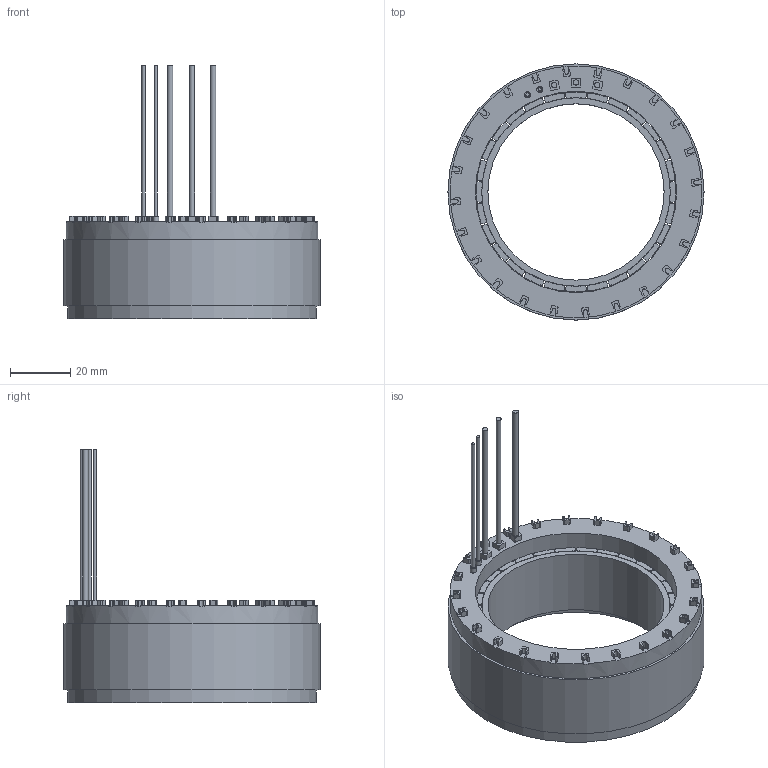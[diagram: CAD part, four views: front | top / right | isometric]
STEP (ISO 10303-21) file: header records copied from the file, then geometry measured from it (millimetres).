
FILE_DESCRIPTION( ('This file contains a STEP AP42 implementation' ,'as created by ZW3D STEP Interface translator.') ,'2;1' );
FILE_NAME( 'FM2-08523 籵謂.stp' ,'26 324.101029', (''), ('ZWCAD Software Co.'), 'Version 1.0', 'ZW3D to STEP translator', '' );
FILE_SCHEMA(('AUTOMOTIVE_DESIGN { 1 0 10303 214 1 1 1 1 }'));
Length unit declared in the file: millimetre
Products named in the file (4): 0; FM2-08523 籵謂; 8522隅赽_1; 8522蛌赽拸怢論_1
Assembly tree (2 placements, depth 2):
  0
  FM2-08523 籵謂
    8522隅赽_1
    8522蛌赽拸怢論_1
Bounding box: 85 x 85 x 84 mm (x, y, z)
Volume: 84317.4 mm3; surface area: 49462.9 mm2
Topology: 32 solids, 32 shells, 625 faces, 1658 edges, 1108 vertices
Faces by surface type: cylinder 315, plane 310
Full cylindrical faces by diameter (mm): 1.1 x2, 1.78 x3, 2 x2, 58.5 x1, 62.5 x1, 66.8 x3, 82.6 x1, 83.5 x1, 85 x1
Entity records: 20677 total; most frequent: DIRECTION 3605, CARTESIAN_POINT 3393, ORIENTED_EDGE 3306, EDGE_CURVE 1653, AXIS2_PLACEMENT_3D 1315, VERTEX_POINT 1102, VECTOR 975, LINE 975
